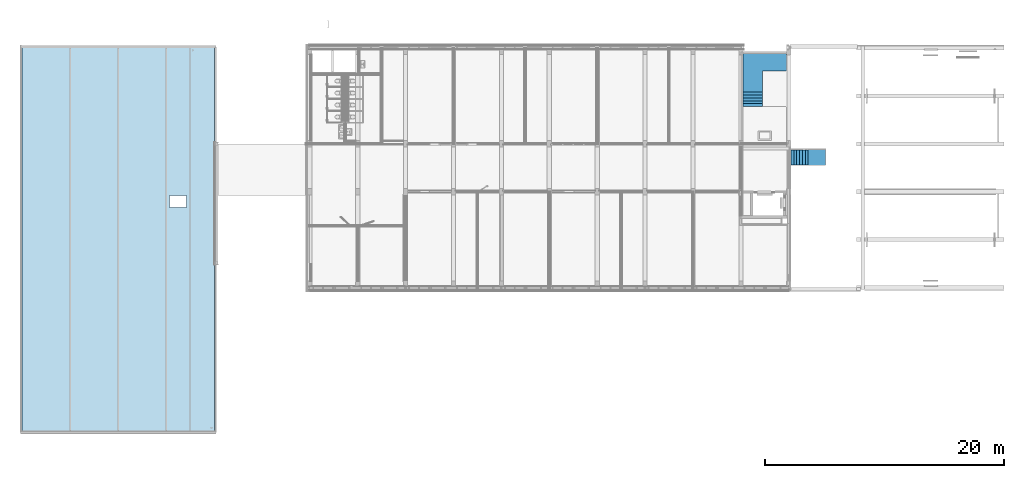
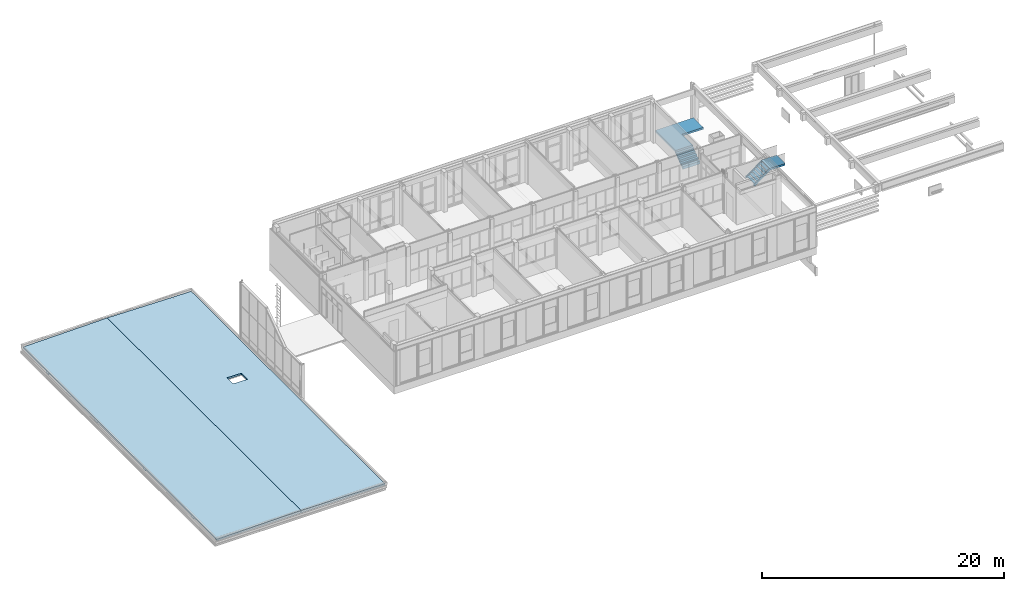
# One storey, part 18 of 54: 2 roofs, 2 stairs.
"""IFC2X3 building model written with IfcOpenShell, lengths in millimetres."""

from ifc_helpers import new_model, entity, si_unit, converted_unit, derived_unit, money_unit, direction, frame, origin_with_axes, place, context, subcontext, project, spatial, faceted_brep, material, material_list, element, save


model = new_model("IFC2X3")

# Units and contexts
model_context = context("Model", 3, precision=0.01, world=origin_with_axes(), true_north=direction((0.0, 1.0)))
body_context = subcontext(model_context, "Body", "Model", "MODEL_VIEW")
ifc_project = project(units=[si_unit("LENGTHUNIT", "METRE", prefix="MILLI"), si_unit("AREAUNIT", "SQUARE_METRE"), si_unit("VOLUMEUNIT", "CUBIC_METRE"), converted_unit("PLANEANGLEUNIT", "DEGREE", entity("IfcPlaneAngleMeasure", 0.0174532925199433), si_unit("PLANEANGLEUNIT", "RADIAN"), dimensions=[0, 0, 0, 0, 0, 0, 0]), money_unit("EUR"), converted_unit("TIMEUNIT", "Year", entity("IfcTimeMeasure", 31557600.0), si_unit("TIMEUNIT", "SECOND"), dimensions=[0, 0, 1, 0, 0, 0, 0]), si_unit("MASSUNIT", "GRAM", prefix="KILO"), si_unit("THERMODYNAMICTEMPERATUREUNIT", "DEGREE_CELSIUS"), si_unit("LUMINOUSINTENSITYUNIT", "LUMEN"), si_unit("ENERGYUNIT", "JOULE", prefix="MEGA"), derived_unit("THERMALCONDUCTANCEUNIT", [(si_unit("POWERUNIT", "WATT"), 1), (si_unit("LENGTHUNIT", "METRE"), -1), (si_unit("THERMODYNAMICTEMPERATUREUNIT", "KELVIN"), -1)]), derived_unit("SPECIFICHEATCAPACITYUNIT", [(si_unit("ENERGYUNIT", "JOULE"), 1), (si_unit("MASSUNIT", "GRAM", prefix="KILO"), -1), (si_unit("THERMODYNAMICTEMPERATUREUNIT", "KELVIN"), -1)]), derived_unit("MASSDENSITYUNIT", [(si_unit("MASSUNIT", "GRAM", prefix="KILO"), 1), (si_unit("VOLUMEUNIT", "CUBIC_METRE"), -1)])], contexts=[model_context])

# Site, building, storey
site_placement = place(None, origin_with_axes())
site = spatial("IfcSite", under=ifc_project, at=site_placement, Name="<site naam>", CompositionType="ELEMENT")
building_placement = place(site_placement, origin_with_axes())
building = spatial("IfcBuilding", under=site, at=building_placement, Name="<Naam gebouw>", CompositionType="ELEMENT")
storey_placement = place(building_placement, frame((0.0, 0.0, 8500.0), z_axis=(0.0, 0.0, 1.0), x_axis=(1.0, 0.0, 0.0)))
storey = spatial("IfcBuildingStorey", under=building, at=storey_placement, Name="02 2e verdieping", CompositionType="ELEMENT", Elevation=8500.0)

# Stairs
ifc_material_1 = material(Name="beton")
ifc_material_list_1 = material_list([ifc_material_1, ifc_material_1])
stair_1_placement = place(storey_placement, frame((49810.00000000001, 15120.00000000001, -29.99999999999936), z_axis=(0.0, 0.0, 1.0), x_axis=(1.0, 0.0, 0.0)))
element("IfcStair", 1, at=stair_1_placement, inside=storey, material=ifc_material_list_1, Name="24_Trap_", ShapeType="NOTDEFINED", context=body_context, shape_type="Brep", body=[
    faceted_brep([(0.0, 1200.0, 896.0000000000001), (-1635.0, 1200.0, 896.0000000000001), (-1635.0, 1200.0, 913.3333333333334), (0.0, 1200.0, 913.3333333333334), (0.0, 1375.362620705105, 896.0000000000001), (-1635.0, 1375.362620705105, 896.0000000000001), (-1635.0, 1200.0, 762.529560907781), (-1635.0, 1120.0, 701.6406720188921), (-1635.0, 1039.999999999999, 640.7517831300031), (-1635.0, 959.9999999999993, 579.8628942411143), (-1635.0, 879.9999999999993, 518.9740053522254), (-1635.0, 799.9999999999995, 458.0851164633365), (-1635.0, 719.9999999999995, 397.1962275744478), (-1635.0, 639.9999999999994, 336.3073386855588), (-1635.0, 559.9999999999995, 275.4184497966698), (-1635.0, 479.9999999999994, 214.529560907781), (-1635.0, 399.9999999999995, 153.6406720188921), (-1635.0, 319.9999999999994, 92.7517831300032), (-1635.0, 239.9999999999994, 31.86289424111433), (-1635.0, 159.9999999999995, -29.02599464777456), (-1635.0, 79.9999999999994, -89.91488353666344), (-1635.0, 66.74948201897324, -99.99999999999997), (-1635.0, 0.0, -99.99999999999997), (-1635.0, 0.0, 182.6666666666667), (-1635.0, 239.9999999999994, 182.6666666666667), (-1635.0, 239.9999999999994, 365.3333333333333), (-1635.0, 479.9999999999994, 365.3333333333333), (-1635.0, 479.9999999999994, 548.0), (-1635.0, 719.9999999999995, 548.0), (-1635.0, 719.9999999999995, 730.6666666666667), (-1635.0, 959.9999999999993, 730.6666666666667), (-1635.0, 959.9999999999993, 913.3333333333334), (0.0, 959.9999999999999, 913.3333333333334), (0.0, 959.9999999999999, 730.6666666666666), (0.0, 720.0000000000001, 730.6666666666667), (0.0, 720.0000000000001, 548.0), (0.0, 479.9999999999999, 548.0), (0.0, 479.9999999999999, 365.3333333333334), (0.0, 240.0, 365.3333333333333), (0.0, 240.0, 182.6666666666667), (0.0, 0.0, 182.6666666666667), (0.0, 0.0, -99.99999999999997), (0.0, 66.7494820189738, -99.99999999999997), (0.0, 79.99999999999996, -89.91488353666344), (0.0, 159.9999999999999, -29.02599464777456), (0.0, 240.0, 31.86289424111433), (0.0, 319.9999999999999, 92.7517831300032), (0.0, 399.9999999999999, 153.6406720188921), (0.0, 480.0, 214.529560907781), (0.0, 559.9999999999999, 275.4184497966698), (0.0, 639.9999999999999, 336.3073386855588), (0.0, 720.0, 397.1962275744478), (0.0, 799.9999999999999, 458.0851164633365), (0.0, 879.9999999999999, 518.9740053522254), (0.0, 959.9999999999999, 579.8628942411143), (0.0, 1040.0, 640.7517831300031), (0.0, 1120.0, 701.640672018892), (0.0, 1200.0, 762.529560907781)], [[[0, 1, 2, 3]], [[1, 0, 4, 5]], [[6, 7, 8, 9, 10, 11, 12, 13, 14, 15, 16, 17, 18, 19, 20, 21, 22, 23, 24, 25, 26, 27, 28, 29, 30, 31, 2, 1, 5]], [[32, 3, 2, 31]], [[0, 3, 32, 33, 34, 35, 36, 37, 38, 39, 40, 41, 42, 43, 44, 45, 46, 47, 48, 49, 50, 51, 52, 53, 54, 55, 56, 57, 4]], [[57, 56, 7, 6, 5, 4]], [[7, 56, 55, 8]], [[8, 55, 54, 9]], [[9, 54, 53, 10]], [[10, 53, 52, 11]], [[11, 52, 51, 12]], [[12, 51, 50, 13]], [[13, 50, 49, 14]], [[14, 49, 48, 15]], [[15, 48, 47, 16]], [[16, 47, 46, 17]], [[17, 46, 45, 18]], [[18, 45, 44, 19]], [[19, 44, 43, 20]], [[20, 43, 42, 21]], [[42, 41, 22, 21]], [[22, 41, 40, 23]], [[23, 40, 39, 24]], [[38, 25, 24, 39]], [[25, 38, 37, 26]], [[36, 27, 26, 37]], [[27, 36, 35, 28]], [[34, 29, 28, 35]], [[29, 34, 33, 30]], [[32, 31, 30, 33]]]),
    faceted_brep([(-1634.999999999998, 1199.999999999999, 896.0000000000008), (0.0, 1199.999999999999, 896.0000000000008), (0.0, 1199.999999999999, 1096.0), (-1634.999999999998, 1199.999999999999, 1096.0), (-1634.999999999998, 1425.39152348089, 896.0000000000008), (-1634.999999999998, 4565.087091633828, 896.0000000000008), (2015.000000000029, 4565.087091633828, 896.0000000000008), (2015.000000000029, 2954.981629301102, 896.0000000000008), (0.0, 2954.981629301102, 896.0000000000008), (0.0, 1425.39152348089, 896.0000000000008), (0.0, 1425.39152348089, 1096.0), (0.0, 2954.981629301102, 1096.0), (2015.000000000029, 2954.981629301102, 1096.0), (2015.000000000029, 4565.087091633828, 1096.0), (-1634.999999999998, 4565.087091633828, 1096.0), (-1634.999999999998, 1425.39152348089, 1096.0)], [[[0, 1, 2, 3]], [[0, 4, 5, 6, 7, 8, 9, 1]], [[1, 9, 10, 2]], [[3, 2, 10, 11, 12, 13, 14, 15]], [[4, 0, 3, 15]], [[5, 4, 15, 14]], [[6, 5, 14, 13]], [[7, 6, 13, 12]], [[8, 7, 12, 11]], [[9, 8, 11, 10]]]),
])
ifc_material_2 = material(Name="staal")
ifc_material_list_2 = material_list([ifc_material_2, ifc_material_2, ifc_material_2, ifc_material_2, ifc_material_2, ifc_material_2, ifc_material_2, ifc_material_2, ifc_material_2, ifc_material_2, ifc_material_2])
stair_2_placement = place(storey_placement, frame((54634.97264274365, 11515.00000000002, 0.0), z_axis=(0.0, 0.0, 1.0), x_axis=(1.0, 0.0, 0.0)))
element("IfcStair", 2, at=stair_2_placement, inside=storey, material=ifc_material_list_2, Name="24_Trap_", ShapeType="NOTDEFINED", context=body_context, shape_type="Brep", body=[
    faceted_brep([(-948.9612534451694, 69.99999999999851, 863.0000000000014), (-948.9612534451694, 0.0, 863.0000000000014), (-2388.961253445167, 0.0, -199.9999999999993), (-2388.961253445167, 69.99999999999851, -199.9999999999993), (-1014.784709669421, 0.0, 1063.000000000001), (-1014.784709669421, 69.99999999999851, 1063.000000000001), (-2454.784709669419, 0.0, 0.0), (-2524.784709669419, 0.0, 0.0), (-2524.784709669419, 0.0, -199.9999999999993), (-2524.784709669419, 69.99999999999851, -199.9999999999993), (-2524.784709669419, 69.99999999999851, 0.0), (-2454.784709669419, 69.99999999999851, 0.0)], [[[0, 1, 2, 3]], [[4, 1, 0, 5]], [[1, 4, 6, 7, 8, 2]], [[9, 3, 2, 8]], [[5, 0, 3, 9, 10, 11]], [[4, 5, 11, 6]], [[7, 6, 11, 10]], [[10, 9, 8, 7]]]),
    faceted_brep([(-1014.784709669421, 0.0, 1063.000000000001), (-948.9612534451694, 0.0, 863.0000000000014), (448.2512781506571, 0.0, 863.0000000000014), (448.2512781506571, 0.0, 1063.000000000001), (-948.9612534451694, 69.99999999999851, 863.0000000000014), (-1014.784709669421, 69.99999999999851, 1063.000000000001), (448.2512781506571, 69.99999999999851, 863.0000000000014), (448.2512781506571, 69.99999999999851, 1063.000000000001)], [[[0, 1, 2, 3]], [[4, 1, 0, 5]], [[1, 4, 6, 2]], [[2, 6, 7, 3]], [[5, 0, 3, 7]], [[4, 5, 7, 6]]]),
    faceted_brep([(-948.9612534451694, -1260.000000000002, 863.0000000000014), (-948.9612534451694, -1330.0, 863.0000000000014), (-2388.961253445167, -1330.0, -199.9999999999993), (-2388.961253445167, -1260.000000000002, -199.9999999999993), (-1014.784709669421, -1330.0, 1063.000000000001), (-1014.784709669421, -1260.000000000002, 1063.000000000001), (-2454.784709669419, -1330.0, 0.0), (-2524.784709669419, -1330.0, 0.0), (-2524.784709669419, -1330.0, -199.9999999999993), (-2524.784709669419, -1260.000000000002, -199.9999999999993), (-2524.784709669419, -1260.000000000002, 0.0), (-2454.784709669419, -1260.000000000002, 0.0)], [[[0, 1, 2, 3]], [[4, 1, 0, 5]], [[1, 4, 6, 7, 8, 2]], [[9, 3, 2, 8]], [[5, 0, 3, 9, 10, 11]], [[4, 5, 11, 6]], [[7, 6, 11, 10]], [[10, 9, 8, 7]]]),
    faceted_brep([(-1014.784709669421, -1330.0, 1063.000000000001), (-948.9612534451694, -1330.0, 863.0000000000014), (448.2512781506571, -1330.0, 863.0000000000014), (448.2512781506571, -1330.0, 1063.000000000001), (-948.9612534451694, -1260.000000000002, 863.0000000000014), (-1014.784709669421, -1260.000000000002, 1063.000000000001), (448.2512781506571, -1260.000000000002, 863.0000000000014), (448.2512781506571, -1260.000000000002, 1063.000000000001)], [[[0, 1, 2, 3]], [[4, 1, 0, 5]], [[1, 4, 6, 2]], [[2, 6, 7, 3]], [[5, 0, 3, 7]], [[4, 5, 7, 6]]]),
    faceted_brep([(-2454.784709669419, 0.0, -38.00000000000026), (-2454.784709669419, -1260.000000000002, -38.00000000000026), (-2454.784709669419, -1260.000000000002, 0.0), (-2454.784709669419, 0.0, 0.0), (-2184.784709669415, 0.0, -38.00000000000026), (-2184.784709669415, -1260.000000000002, -38.00000000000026), (-2184.784709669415, -1260.000000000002, 0.0), (-2184.784709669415, 0.0, 0.0)], [[[0, 1, 2, 3]], [[0, 4, 5, 1]], [[1, 5, 6, 2]], [[3, 2, 6, 7]], [[4, 0, 3, 7]], [[5, 4, 7, 6]]]),
    faceted_brep([(-2214.784709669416, 0.0, 139.1666666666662), (-2214.784709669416, -1260.000000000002, 139.1666666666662), (-2214.784709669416, -1260.000000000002, 177.1666666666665), (-2214.784709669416, 0.0, 177.1666666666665), (-1944.784709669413, 0.0, 139.1666666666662), (-1944.784709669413, -1260.000000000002, 139.1666666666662), (-1944.784709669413, -1260.000000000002, 177.1666666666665), (-1944.784709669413, 0.0, 177.1666666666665)], [[[0, 1, 2, 3]], [[0, 4, 5, 1]], [[1, 5, 6, 2]], [[3, 2, 6, 7]], [[4, 0, 3, 7]], [[5, 4, 7, 6]]]),
    faceted_brep([(-1974.784709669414, 0.0, 316.3333333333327), (-1974.784709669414, -1260.000000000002, 316.3333333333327), (-1974.784709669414, -1260.000000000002, 354.3333333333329), (-1974.784709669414, 0.0, 354.3333333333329), (-1704.784709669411, 0.0, 316.3333333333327), (-1704.784709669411, -1260.000000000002, 316.3333333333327), (-1704.784709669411, -1260.000000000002, 354.3333333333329), (-1704.784709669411, 0.0, 354.3333333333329)], [[[0, 1, 2, 3]], [[0, 4, 5, 1]], [[1, 5, 6, 2]], [[3, 2, 6, 7]], [[4, 0, 3, 7]], [[5, 4, 7, 6]]]),
    faceted_brep([(-1734.784709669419, 0.0, 493.5000000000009), (-1734.784709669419, -1260.000000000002, 493.5000000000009), (-1734.784709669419, -1260.000000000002, 531.5000000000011), (-1734.784709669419, 0.0, 531.5000000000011), (-1464.784709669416, 0.0, 493.5000000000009), (-1464.784709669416, -1260.000000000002, 493.5000000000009), (-1464.784709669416, -1260.000000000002, 531.5000000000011), (-1464.784709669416, 0.0, 531.5000000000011)], [[[0, 1, 2, 3]], [[0, 4, 5, 1]], [[1, 5, 6, 2]], [[3, 2, 6, 7]], [[4, 0, 3, 7]], [[5, 4, 7, 6]]]),
    faceted_brep([(-1494.784709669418, 0.0, 670.6666666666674), (-1494.784709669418, -1260.000000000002, 670.6666666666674), (-1494.784709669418, -1260.000000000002, 708.6666666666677), (-1494.784709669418, 0.0, 708.6666666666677), (-1224.784709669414, 0.0, 670.6666666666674), (-1224.784709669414, -1260.000000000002, 670.6666666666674), (-1224.784709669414, -1260.000000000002, 708.6666666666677), (-1224.784709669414, 0.0, 708.6666666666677)], [[[0, 1, 2, 3]], [[0, 4, 5, 1]], [[1, 5, 6, 2]], [[3, 2, 6, 7]], [[4, 0, 3, 7]], [[5, 4, 7, 6]]]),
    faceted_brep([(-1254.784709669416, 0.0, 847.8333333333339), (-1254.784709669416, -1260.000000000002, 847.8333333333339), (-1254.784709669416, -1260.000000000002, 885.8333333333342), (-1254.784709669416, 0.0, 885.8333333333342), (-974.7847034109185, 0.0, 847.8333333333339), (-974.7847034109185, -1260.000000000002, 847.8333333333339), (-974.7847034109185, -1260.000000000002, 885.8333333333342), (-974.7847034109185, 0.0, 885.8333333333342)], [[[0, 1, 2, 3]], [[0, 4, 5, 1]], [[1, 5, 6, 2]], [[3, 2, 6, 7]], [[4, 0, 3, 7]], [[5, 4, 7, 6]]]),
    faceted_brep([(-1014.784709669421, 0.0, 1025.0), (-1014.784709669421, -1260.000000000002, 1025.0), (-1014.784709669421, -1260.000000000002, 1063.000000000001), (-1014.784709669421, 0.0, 1063.000000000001), (-780.1178214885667, 0.0, 1025.0), (448.2512781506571, 0.0, 1025.0), (448.2512781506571, -1260.000000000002, 1025.0), (-780.1178214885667, -1260.000000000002, 1025.0), (-780.1178214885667, -1260.000000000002, 1063.000000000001), (448.2512781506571, -1260.000000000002, 1063.000000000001), (448.2512781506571, 0.0, 1063.000000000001), (-780.1178214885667, 0.0, 1063.000000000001)], [[[0, 1, 2, 3]], [[0, 4, 5, 6, 7, 1]], [[1, 7, 8, 2]], [[3, 2, 8, 9, 10, 11]], [[4, 0, 3, 11]], [[5, 4, 11, 10]], [[6, 5, 10, 9]], [[7, 6, 9, 8]]]),
])

# Roofs
ifc_material_3 = material(Name="ALG - ISOLATIE")
roof_1_placement = place(storey_placement, frame((-3999.999999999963, -12034.99999999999, -79.99999923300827), z_axis=(0.0, 0.0, 1.0), x_axis=(0.0, 1.0, 0.0)))
element("IfcRoof", 3, at=roof_1_placement, inside=storey, material=ifc_material_3, Name="27_Dak_ALG", ShapeType="NOTDEFINED", context=body_context, shape_type="Brep", body=[
    faceted_brep([(28235.0, -3.894928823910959e-07, 0.0), (32069.99999976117, -3.894928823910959e-07, 0.0), (32070.00000000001, 0.0, 250.0305973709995), (-2.025903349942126, 0.0, 250.0305973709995), (-2.025903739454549, -3.894928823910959e-07, 0.0), (3835.000000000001, -3.894933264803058e-07, 0.0), (4235.000000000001, -3.894924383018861e-07, 0.0), (11835.0, -3.894919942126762e-07, 0.0), (12235.0, -3.894919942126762e-07, 0.0), (19835.0, -3.894924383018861e-07, 0.0), (20235.00000000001, -3.894924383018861e-07, 0.0), (27835.0, -3.894928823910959e-07, 0.0), (32069.99999988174, 8035.000000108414, 0.0), (28235.0, 5650.000000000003, 0.0), (28260.00000000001, 5650.000000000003, 0.0), (28260.00000000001, 6350.000000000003, 0.0), (28235.0, 6350.000000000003, 0.0), (28235.0, 8035.000000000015, 0.0), (32070.00000000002, 8035.000000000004, 123.8067308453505), (-2.025903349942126, 8035.000000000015, 123.8067308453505), (-2.025903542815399, 8035.000000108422, 0.0), (3835.000000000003, 8035.000000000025, 0.0), (3835.000000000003, 6350.000000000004, 0.0), (3810.0, 6350.000000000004, 0.0), (3810.0, 5650.000000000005, 0.0), (3835.000000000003, 5650.000000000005, 0.0), (4235.000000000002, 5650.000000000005, -88.75729219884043), (3835.000000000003, 5650.000000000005, -88.75729219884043), (3810.0, 5650.000000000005, -88.75729219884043), (3810.0, 6350.000000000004, -99.75377092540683), (3835.000000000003, 6350.000000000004, -99.75377092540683), (3835.000000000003, 8035.000000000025, -126.2238661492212), (4235.000000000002, 8035.000000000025, -126.2238661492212), (4235.000000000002, 6350.000000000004, -99.75377092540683), (4259.999999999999, 6350.000000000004, -99.75377092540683), (4259.999999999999, 5650.000000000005, -88.75729219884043), (4235.000000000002, 5650.000000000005, 0.0), (4259.999999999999, 5650.000000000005, 0.0), (4259.999999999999, 6350.000000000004, 0.0), (4235.000000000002, 6350.000000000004, 0.0), (4235.000000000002, 8035.000000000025, 0.0), (11835.0, 8035.000000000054, 0.0), (11835.0, 6349.999999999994, 0.0), (11810.00000000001, 6349.999999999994, 0.0), (11810.00000000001, 5649.999999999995, 0.0), (11835.0, 5649.999999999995, 0.0), (12235.0, 5649.999999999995, -88.75729219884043), (11835.0, 5649.999999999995, -88.75729219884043), (11810.00000000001, 5649.999999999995, -88.75729219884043), (11810.00000000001, 6349.999999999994, -99.75377092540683), (11835.0, 6349.999999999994, -99.75377092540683), (11835.0, 8035.000000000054, -126.2238661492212), (12235.0, 8035.000000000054, -126.2238661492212), (12235.0, 6349.999999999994, -99.75377092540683), (12260.00000000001, 6349.999999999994, -99.75377092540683), (12260.00000000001, 5649.999999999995, -88.75729219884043), (12235.0, 5649.999999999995, 0.0), (12260.00000000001, 5649.999999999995, 0.0), (12260.00000000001, 6349.999999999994, 0.0), (12235.0, 6349.999999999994, 0.0), (12235.0, 8035.000000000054, 0.0), (19835.0, 8035.000000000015, 0.0), (19835.0, 6350.000000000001, 0.0), (19810.00000000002, 6350.000000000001, 0.0), (19810.00000000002, 5650.000000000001, 0.0), (19835.0, 5650.000000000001, 0.0), (20235.0, 5650.000000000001, -88.75729219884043), (19835.0, 5650.000000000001, -88.75729219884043), (19810.00000000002, 5650.000000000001, -88.75729219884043), (19810.00000000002, 6350.000000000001, -99.75377092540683), (19835.0, 6350.000000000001, -99.75377092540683), (19835.0, 8035.000000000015, -126.2238661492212), (20235.0, 8035.000000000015, -126.2238661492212), (20235.0, 6350.000000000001, -99.75377092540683), (20260.00000000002, 6350.000000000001, -99.75377092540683), (20260.00000000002, 5650.000000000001, -88.75729219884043), (20235.0, 5650.000000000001, 0.0), (20260.00000000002, 5650.000000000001, 0.0), (20260.00000000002, 6350.000000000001, 0.0), (20235.0, 6350.000000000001, 0.0), (20235.0, 8035.000000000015, 0.0), (27835.0, 8035.000000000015, 0.0), (27835.0, 6350.000000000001, 0.0), (27810.00000000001, 6350.000000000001, 0.0), (27810.00000000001, 5650.000000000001, 0.0), (27835.0, 5650.000000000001, 0.0), (28235.0, 5650.000000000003, -88.75729219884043), (27835.0, 5650.000000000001, -88.75729219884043), (27810.00000000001, 5650.000000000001, -88.75729219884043), (27810.00000000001, 6350.000000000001, -99.75377092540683), (27835.0, 6350.000000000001, -99.75377092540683), (27835.0, 8035.000000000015, -126.2238661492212), (28235.0, 8035.000000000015, -126.2238661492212), (28235.0, 6350.000000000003, -99.75377092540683), (28260.00000000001, 6350.000000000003, -99.75377092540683), (28260.00000000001, 5650.000000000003, -88.75729219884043)], [[[0, 1, 2, 3, 4, 5, 6, 7, 8, 9, 10, 11]], [[12, 1, 0, 13, 14, 15, 16, 17]], [[1, 12, 18, 2]], [[2, 18, 19, 3]], [[20, 4, 3, 19]], [[5, 4, 20, 21, 22, 23, 24, 25]], [[26, 6, 5, 27, 28, 29, 30, 31, 32, 33, 34, 35]], [[7, 6, 36, 37, 38, 39, 40, 41, 42, 43, 44, 45]], [[46, 8, 7, 47, 48, 49, 50, 51, 52, 53, 54, 55]], [[9, 8, 56, 57, 58, 59, 60, 61, 62, 63, 64, 65]], [[66, 10, 9, 67, 68, 69, 70, 71, 72, 73, 74, 75]], [[11, 10, 76, 77, 78, 79, 80, 81, 82, 83, 84, 85]], [[86, 0, 11, 87, 88, 89, 90, 91, 92, 93, 94, 95]], [[0, 86, 13]], [[86, 95, 14, 13]], [[95, 94, 15, 14]], [[94, 93, 16, 15]], [[93, 92, 17, 16]], [[17, 92, 91, 81, 80, 72, 71, 61, 60, 52, 51, 41, 40, 32, 31, 21, 20, 19, 18, 12]], [[31, 30, 22, 21]], [[30, 29, 23, 22]], [[29, 28, 24, 23]], [[28, 27, 25, 24]], [[27, 5, 25]], [[6, 26, 36]], [[33, 32, 40, 39]], [[34, 33, 39, 38]], [[35, 34, 38, 37]], [[26, 35, 37, 36]], [[51, 50, 42, 41]], [[50, 49, 43, 42]], [[49, 48, 44, 43]], [[48, 47, 45, 44]], [[47, 7, 45]], [[8, 46, 56]], [[53, 52, 60, 59]], [[54, 53, 59, 58]], [[55, 54, 58, 57]], [[46, 55, 57, 56]], [[71, 70, 62, 61]], [[70, 69, 63, 62]], [[69, 68, 64, 63]], [[68, 67, 65, 64]], [[67, 9, 65]], [[10, 66, 76]], [[73, 72, 80, 79]], [[74, 73, 79, 78]], [[75, 74, 78, 77]], [[66, 75, 77, 76]], [[91, 90, 82, 81]], [[90, 89, 83, 82]], [[89, 88, 84, 83]], [[88, 87, 85, 84]], [[87, 11, 85]]]),
])
roof_2_placement = place(storey_placement, frame((-3999.999999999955, 2029.132221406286, -79.99999923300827), z_axis=(0.0, 0.0, 1.0), x_axis=(0.0, -1.0, 0.0)))
element("IfcRoof", 4, at=roof_2_placement, inside=storey, material=ifc_material_3, Name="27_Dak_ALG", ShapeType="NOTDEFINED", context=body_context, shape_type="Brep", body=[
    faceted_brep([(-5645.867775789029, 4300.000000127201, 0.0), (-5645.867775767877, 5699.999999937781, 0.0), (-5645.867775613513, 5700.000000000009, 160.4878420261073), (-5645.867775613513, 4300.00000000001, 182.4807994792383), (-18005.86777898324, -3.894862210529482e-07, 0.0), (-18005.8677787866, 8035.000000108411, 0.0), (14066.15812463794, 8035.000000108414, 0.0), (14066.15812451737, -3.894862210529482e-07, 0.0), (10229.13222140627, -3.894862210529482e-07, 0.0), (10229.13222140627, 5649.999999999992, 0.0), (10254.13222140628, 5649.999999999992, 0.0), (10254.13222140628, 6349.999999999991, 0.0), (10229.13222140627, 6349.999999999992, 0.0), (10229.13222140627, 7999.999999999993, 0.0), (9829.132221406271, 7999.999999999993, 0.0), (9829.132221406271, 6349.999999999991, 0.0), (9804.132221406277, 6349.999999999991, 0.0), (9804.132221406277, 5649.999999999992, 0.0), (9829.132221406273, 5649.999999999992, 0.0), (9829.132221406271, -3.894871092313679e-07, 0.0), (2229.13222140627, -3.894862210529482e-07, 0.0), (2229.13222140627, 5650.0, 0.0), (2254.132221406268, 5650.0, 0.0), (2254.132221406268, 6350.0, 0.0), (2229.13222140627, 6350.0, 0.0), (2229.132221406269, 7999.999999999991, 0.0), (1829.132221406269, 7999.999999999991, 0.0), (1829.132221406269, 6350.0, 0.0), (1804.132221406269, 6350.0, 0.0), (1804.132221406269, 5650.0, 0.0), (1829.13222140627, 5650.0, 0.0), (1829.13222140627, -3.894862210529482e-07, 0.0), (-5770.867778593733, -3.894871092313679e-07, 0.0), (-5770.867778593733, 5649.999999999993, 0.0), (-5745.867778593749, 5649.999999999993, 0.0), (-5745.86777859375, 6349.999999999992, 0.0), (-5770.867778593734, 6349.999999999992, 0.0), (-5770.867778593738, 7999.999999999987, 0.0), (-6170.867778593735, 7999.999999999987, 0.0), (-6170.867778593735, 6349.999999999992, 0.0), (-6195.867778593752, 6349.999999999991, 0.0), (-6195.867778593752, 5649.999999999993, 0.0), (-6170.867778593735, 5649.999999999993, 0.0), (-6170.867778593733, -3.894862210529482e-07, 0.0), (-13770.86777859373, -3.894862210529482e-07, 0.0), (-13770.86777859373, 5649.999999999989, 0.0), (-13745.86777859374, 5649.999999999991, 0.0), (-13745.86777859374, 6349.99999999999, 0.0), (-13770.86777859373, 6349.999999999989, 0.0), (-13770.86777859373, 7999.999999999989, 0.0), (-14170.86777859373, 7999.999999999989, 0.0), (-14170.86777859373, 6349.99999999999, 0.0), (-14195.86777859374, 6349.99999999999, 0.0), (-14195.86777859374, 5649.999999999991, 0.0), (-14170.86777859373, 5649.999999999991, 0.0), (-14170.86777859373, -3.894862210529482e-07, 0.0), (-4645.867778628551, 5699.999999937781, 0.0), (-4645.86777863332, 4300.000000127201, 0.0), (-4645.867778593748, 5700.000000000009, 160.4878420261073), (-18005.86777859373, 8034.999999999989, 123.8067308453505), (-18005.86777859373, 0.0, 250.0305973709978), (14066.15812475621, 0.0, 250.0305973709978), (14066.15812475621, 8034.999999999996, 123.8067308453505), (-4645.867778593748, 4300.00000000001, 182.4807994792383), (10229.13222140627, 5649.999999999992, -88.75729219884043), (10254.13222140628, 5649.999999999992, -88.75729219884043), (10254.13222140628, 6349.999999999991, -99.7537709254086), (10229.13222140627, 6349.999999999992, -99.7537709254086), (10229.13222140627, 7999.999999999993, -125.6740422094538), (9829.132221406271, 7999.999999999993, -125.6740422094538), (9829.132221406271, 6349.999999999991, -99.7537709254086), (9804.132221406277, 6349.999999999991, -99.7537709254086), (9804.132221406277, 5649.999999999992, -88.75729219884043), (9829.132221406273, 5649.999999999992, -88.75729219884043), (2229.13222140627, 5650.0, -88.75729219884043), (2254.132221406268, 5650.0, -88.75729219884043), (2254.132221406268, 6350.0, -99.7537709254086), (2229.13222140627, 6350.0, -99.7537709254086), (2229.132221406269, 7999.999999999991, -125.6740422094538), (1829.132221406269, 7999.999999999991, -125.6740422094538), (1829.132221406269, 6350.0, -99.7537709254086), (1804.132221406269, 6350.0, -99.7537709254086), (1804.132221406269, 5650.0, -88.75729219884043), (1829.13222140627, 5650.0, -88.75729219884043), (-5770.867778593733, 5649.999999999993, -88.75729219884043), (-5745.867778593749, 5649.999999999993, -88.75729219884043), (-5745.86777859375, 6349.999999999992, -99.7537709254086), (-5770.867778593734, 6349.999999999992, -99.7537709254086), (-5770.867778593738, 7999.999999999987, -125.6740422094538), (-6170.867778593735, 7999.999999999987, -125.6740422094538), (-6170.867778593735, 6349.999999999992, -99.7537709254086), (-6195.867778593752, 6349.999999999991, -99.7537709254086), (-6195.867778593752, 5649.999999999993, -88.75729219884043), (-6170.867778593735, 5649.999999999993, -88.75729219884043), (-13770.86777859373, 5649.999999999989, -88.75729219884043), (-13745.86777859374, 5649.999999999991, -88.75729219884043), (-13745.86777859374, 6349.99999999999, -99.7537709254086), (-13770.86777859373, 6349.999999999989, -99.75377092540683), (-13770.86777859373, 7999.999999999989, -125.6740422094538), (-14170.86777859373, 7999.999999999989, -125.6740422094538), (-14170.86777859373, 6349.99999999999, -99.7537709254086), (-14195.86777859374, 6349.99999999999, -99.7537709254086), (-14195.86777859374, 5649.999999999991, -88.75729219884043), (-14170.86777859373, 5649.999999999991, -88.75729219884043)], [[[0, 1, 2, 3]], [[4, 5, 6, 7, 8, 9, 10, 11, 12, 13, 14, 15, 16, 17, 18, 19, 20, 21, 22, 23, 24, 25, 26, 27, 28, 29, 30, 31, 32, 33, 34, 35, 36, 37, 38, 39, 40, 41, 42, 43, 44, 45, 46, 47, 48, 49, 50, 51, 52, 53, 54, 55], [56, 1, 0, 57]], [[1, 56, 58, 2]], [[59, 60, 61, 62], [3, 2, 58, 63]], [[57, 0, 3, 63]], [[5, 4, 60, 59]], [[6, 5, 59, 62]], [[7, 6, 62, 61]], [[8, 7, 61, 60, 4, 55, 44, 43, 32, 31, 20, 19]], [[8, 64, 9]], [[64, 65, 10, 9]], [[65, 66, 11, 10]], [[66, 67, 12, 11]], [[67, 68, 13, 12]], [[68, 69, 14, 13]], [[69, 70, 15, 14]], [[70, 71, 16, 15]], [[71, 72, 17, 16]], [[72, 73, 18, 17]], [[73, 19, 18]], [[20, 74, 21]], [[74, 75, 22, 21]], [[75, 76, 23, 22]], [[76, 77, 24, 23]], [[77, 78, 25, 24]], [[78, 79, 26, 25]], [[79, 80, 27, 26]], [[80, 81, 28, 27]], [[81, 82, 29, 28]], [[82, 83, 30, 29]], [[83, 31, 30]], [[32, 84, 33]], [[84, 85, 34, 33]], [[85, 86, 35, 34]], [[86, 87, 36, 35]], [[87, 88, 37, 36]], [[88, 89, 38, 37]], [[89, 90, 39, 38]], [[90, 91, 40, 39]], [[91, 92, 41, 40]], [[92, 93, 42, 41]], [[93, 43, 42]], [[44, 94, 45]], [[94, 95, 46, 45]], [[95, 96, 47, 46]], [[96, 97, 48, 47]], [[97, 98, 49, 48]], [[98, 99, 50, 49]], [[99, 100, 51, 50]], [[100, 101, 52, 51]], [[101, 102, 53, 52]], [[102, 103, 54, 53]], [[103, 55, 54]], [[56, 57, 63, 58]], [[94, 44, 55, 103, 102, 101, 100, 99, 98, 97, 96, 95]], [[84, 32, 43, 93, 92, 91, 90, 89, 88, 87, 86, 85]], [[74, 20, 31, 83, 82, 81, 80, 79, 78, 77, 76, 75]], [[64, 8, 19, 73, 72, 71, 70, 69, 68, 67, 66, 65]]]),
])

save(model, "model.ifc")
